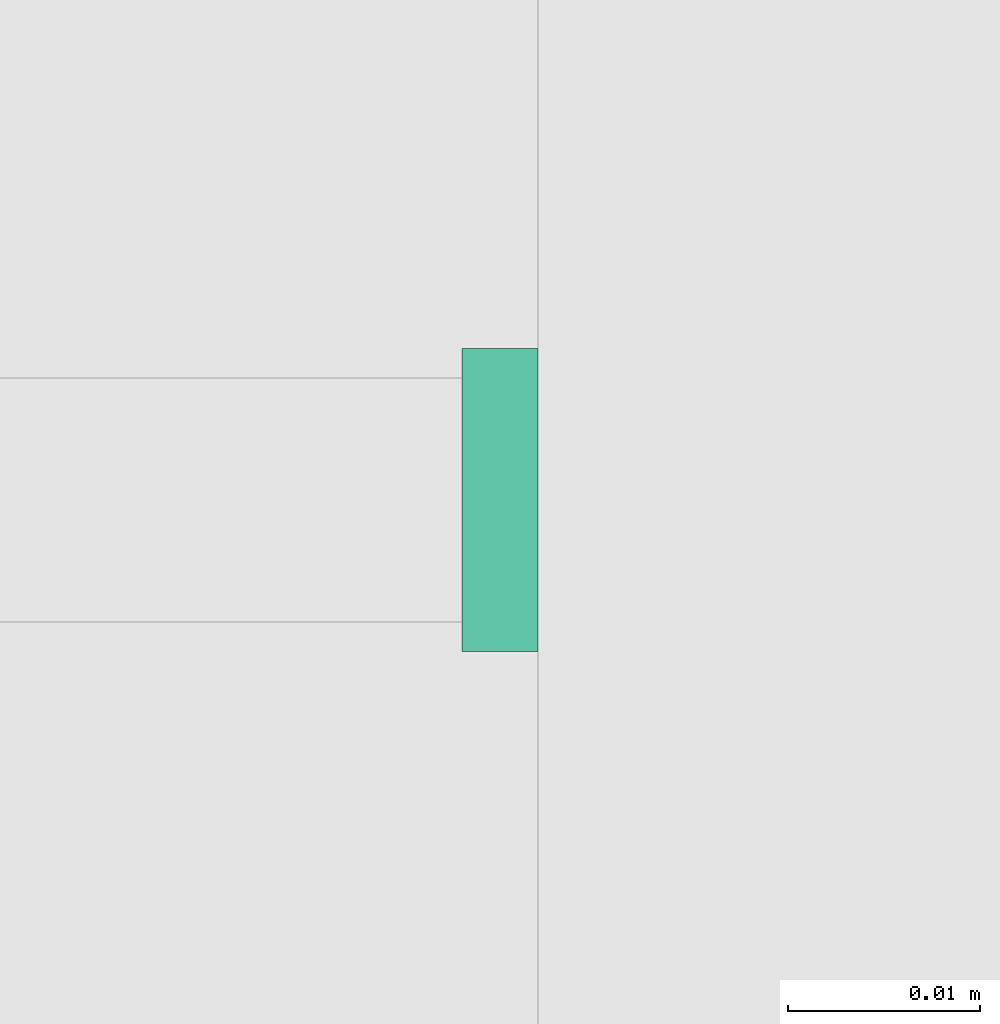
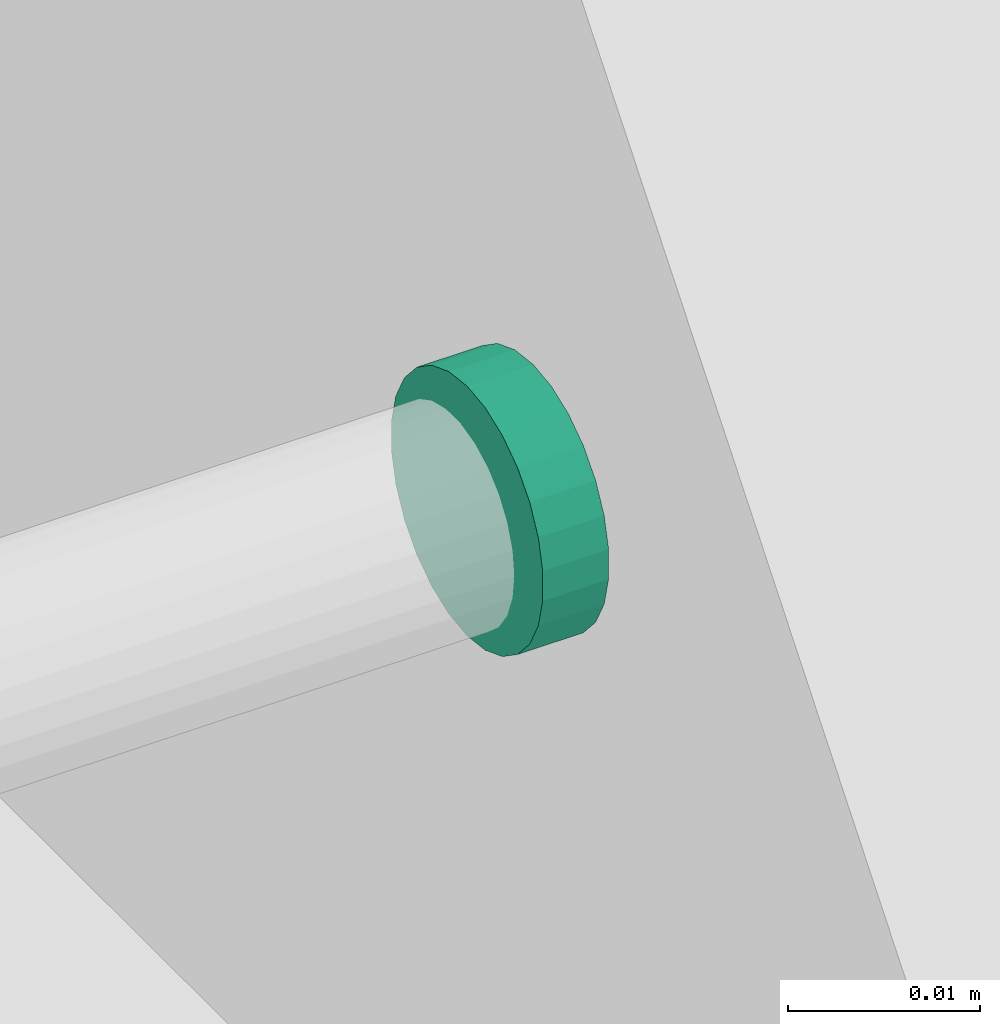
# One storey, part 15 of 22: 1 flow fitting.
"""IFC2X3 building model written with IfcOpenShell, lengths in millimetres."""

from ifc_helpers import new_model, entity, si_unit, converted_unit, derived_unit, direction, frame, origin, origin_2d_with_axis, place, context, subcontext, project, spatial, circle, extrude, source, transform, mapped, material, type_object, type_shapes, element, save


model = new_model("IFC2X3")

# Units and contexts
model_context = context("Model", 3, precision=0.01, world=origin(), true_north=direction((6.123031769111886e-17, 1.0)))
body_context = subcontext(model_context, "Body", "Model", "MODEL_VIEW")
ifc_project = project(units=[si_unit("LENGTHUNIT", "METRE", prefix="MILLI"), si_unit("AREAUNIT", "SQUARE_METRE"), si_unit("VOLUMEUNIT", "CUBIC_METRE"), converted_unit("PLANEANGLEUNIT", "DEGREE", entity("IfcRatioMeasure", 0.017453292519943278), si_unit("PLANEANGLEUNIT", "RADIAN"), dimensions=[0, 0, 0, 0, 0, 0, 0]), si_unit("MASSUNIT", "GRAM", prefix="KILO"), derived_unit("MASSDENSITYUNIT", [(si_unit("MASSUNIT", "GRAM", prefix="KILO"), 1), (si_unit("LENGTHUNIT", "METRE"), -3)]), derived_unit("MOMENTOFINERTIAUNIT", [(si_unit("LENGTHUNIT", "METRE"), 4)]), si_unit("TIMEUNIT", "SECOND"), si_unit("FREQUENCYUNIT", "HERTZ"), si_unit("THERMODYNAMICTEMPERATUREUNIT", "DEGREE_CELSIUS"), derived_unit("THERMALTRANSMITTANCEUNIT", [(si_unit("MASSUNIT", "GRAM", prefix="KILO"), 1), (si_unit("THERMODYNAMICTEMPERATUREUNIT", "KELVIN"), -1), (si_unit("TIMEUNIT", "SECOND"), -3)]), derived_unit("VOLUMETRICFLOWRATEUNIT", [(si_unit("LENGTHUNIT", "METRE"), 3), (si_unit("TIMEUNIT", "SECOND"), -1)]), derived_unit("MASSFLOWRATEUNIT", [(si_unit("MASSUNIT", "GRAM", prefix="KILO"), 1), (si_unit("TIMEUNIT", "SECOND"), -1)]), derived_unit("ROTATIONALFREQUENCYUNIT", [(si_unit("TIMEUNIT", "SECOND"), -1)]), si_unit("ELECTRICCURRENTUNIT", "AMPERE"), si_unit("ELECTRICVOLTAGEUNIT", "VOLT"), si_unit("POWERUNIT", "WATT"), si_unit("FORCEUNIT", "NEWTON", prefix="KILO"), si_unit("ILLUMINANCEUNIT", "LUX"), si_unit("LUMINOUSFLUXUNIT", "LUMEN"), si_unit("LUMINOUSINTENSITYUNIT", "CANDELA"), derived_unit("USERDEFINED", [(si_unit("MASSUNIT", "GRAM", prefix="KILO"), -1), (si_unit("LENGTHUNIT", "METRE"), -2), (si_unit("TIMEUNIT", "SECOND"), 3), (si_unit("LUMINOUSFLUXUNIT", "LUMEN"), 1)]), derived_unit("SOUNDPOWERUNIT", [(si_unit("MASSUNIT", "GRAM", prefix="KILO"), 1), (si_unit("LENGTHUNIT", "METRE"), 2), (si_unit("TIMEUNIT", "SECOND"), -3)]), derived_unit("SOUNDPRESSUREUNIT", [(si_unit("MASSUNIT", "GRAM", prefix="KILO"), 1), (si_unit("LENGTHUNIT", "METRE"), -1), (si_unit("TIMEUNIT", "SECOND"), -2)]), derived_unit("LINEARVELOCITYUNIT", [(si_unit("LENGTHUNIT", "METRE"), 1), (si_unit("TIMEUNIT", "SECOND"), -1)]), si_unit("PRESSUREUNIT", "PASCAL"), derived_unit("USERDEFINED", [(si_unit("LENGTHUNIT", "METRE"), -2), (si_unit("MASSUNIT", "GRAM", prefix="KILO"), 1), (si_unit("TIMEUNIT", "SECOND"), -2)]), derived_unit("LINEARFORCEUNIT", [(si_unit("MASSUNIT", "GRAM", prefix="KILO"), 1), (si_unit("LENGTHUNIT", "METRE"), 1), (si_unit("TIMEUNIT", "SECOND"), -2), (si_unit("LENGTHUNIT", "METRE"), -1)]), derived_unit("PLANARFORCEUNIT", [(si_unit("MASSUNIT", "GRAM", prefix="KILO"), 1), (si_unit("LENGTHUNIT", "METRE"), 1), (si_unit("TIMEUNIT", "SECOND"), -2), (si_unit("LENGTHUNIT", "METRE"), -2)])], contexts=[model_context])

# Site, building, storey
site_placement = place(None, origin())
site = spatial("IfcSite", under=ifc_project, at=site_placement, Name="Default", CompositionType="ELEMENT")
building_placement = place(site_placement, origin())
building = spatial("IfcBuilding", under=site, at=building_placement, CompositionType="ELEMENT")
storey_placement = place(building_placement, frame((0.0, 0.0, 3300.0)))
storey = spatial("IfcBuildingStorey", under=building, at=storey_placement, Name="Level 2", CompositionType="ELEMENT", Elevation=3299.99999999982)

# Flow fitting
ifc_material = material(Name="<Unnamed>")
pipe_fitting_type = type_object("IfcPipeFittingType", Name="M_Transition - Generic:Standard:Standard : M_Transition - Generic:Standard", PredefinedType="NOTDEFINED", material=ifc_material)
shared_shape = source(origin(), body_context, "Body", "SweptSolid", [
    extrude(circle(Radius=7.937500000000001, at=origin_2d_with_axis()), frame((-6759.55060039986, 2204.15219826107, 6010.0), z_axis=(1.0, 0.0, 0.0), x_axis=(0.0, 0.0, 1.0)), (0.0, 0.0, 1.0), 3.9687499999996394),
])
type_shapes(pipe_fitting_type, [shared_shape])
flow_fitting_placement = place(storey_placement, frame((0.0, 0.0, -3300.0)))
element("IfcFlowFitting", 1, at=flow_fitting_placement, inside=storey, type_object=pipe_fitting_type, material=ifc_material, Name="M_Transition - Generic:Standard:Standard : M_Transition - Generic:Standard:Standard:Standard : M_Transition - Generic:Standard : M_Transition - Generic:Standard:Standard : M_Transition - Generic:Standard", ObjectType="M_Transition - Generic:Standard:Standard : M_Transition - Generic:Standard:Standard:Standard : M_Transition - Generic:Standard : M_Transition - Generic:Standard:Standard : M_Transition - Generic:Standard", context=body_context, shape_type="MappedRepresentation", body=[
    mapped(shared_shape, transform((0.0, 0.0, 0.0), scale=1.0)),
])

save(model, "model.ifc")
